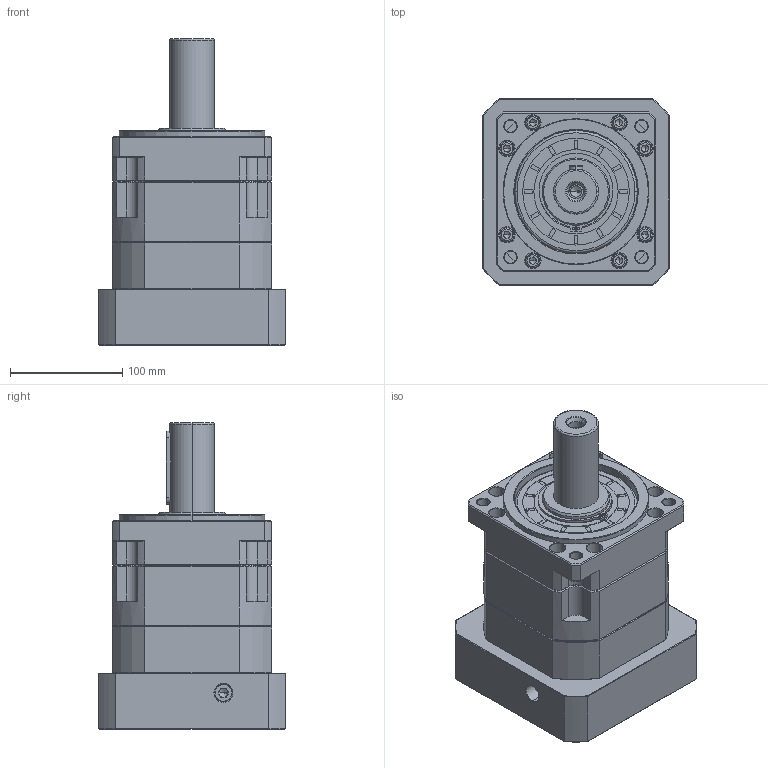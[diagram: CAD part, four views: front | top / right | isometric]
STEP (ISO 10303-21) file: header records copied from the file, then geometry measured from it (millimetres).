
FILE_DESCRIPTION (( 'STEP AP214' ), '1' );
FILE_NAME ('ZB142A-D40-L1-32-130-165-M10.step', '2023-03-17T10:46:09', ( '' ), ( '' ), 'SwSTEP 2.0', 'SolidWorks 2016', '' );
FILE_SCHEMA (( 'AUTOMOTIVE_DESIGN' ));
Length unit declared in the file: millimetre
Products named in the file (1): ZB142A-D40-L1-32-130-165-M10
Bounding box: 166 x 166 x 273.2 mm (x, y, z)
Volume: 3584924.2 mm3; surface area: 304517.7 mm2
Topology: 6 solids, 6 shells, 2042 faces, 5397 edges, 3454 vertices
Faces by surface type: plane 923, cylinder 432, cone 352, bspline 313, torus 22
Entity records: 113511 total; most frequent: CARTESIAN_POINT 43096, ORIENTED_EDGE 10734, DIRECTION 8819, EDGE_CURVE 5367, VERTEX_POINT 3454, VECTOR 3283, LINE 3283, AXIS2_PLACEMENT_3D 2768
